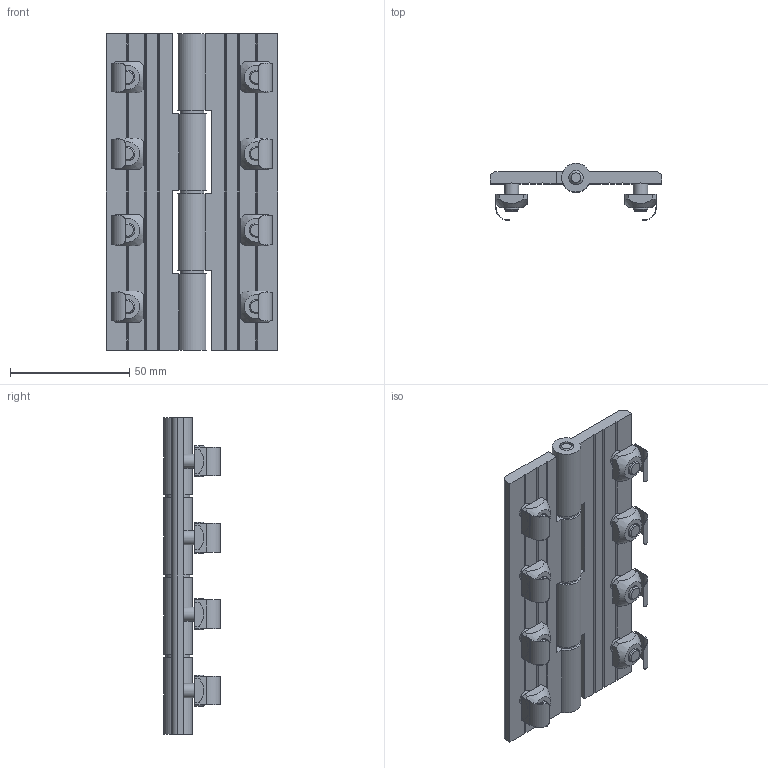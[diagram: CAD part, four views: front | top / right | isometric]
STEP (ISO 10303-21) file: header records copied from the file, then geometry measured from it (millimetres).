
FILE_DESCRIPTION((''),'2;1');
FILE_NAME('C:\Documents and Settings\Administrator\My Documents\AAAAINTERNET\UPLOAD\21.0970 DOOR HINGE LARGE.stp','2010-07-27T11:04:06',('Administrator'),(''),'Autodesk Inventor 2009','Autodesk Inventor 2009','');
FILE_SCHEMA(('AUTOMOTIVE_DESIGN { 1 0 10303 214 1 1 1 1 }'));
Length unit declared in the file: millimetre
Products named in the file (6): 21.0970 DOOR HINGE LARGE; 21.0970 Door Hinge Large Leaf; 21.1096 HINGE WASHER; 21.0970 DOOR HINGE LARGE PIN; 21.1506 M6x16 C'SUNK; 21.1330_2 M6 SQUARE NUT POS FXG
Assembly tree (14 placements, depth 2):
  21.0970 DOOR HINGE LARGE
    21.0970 Door Hinge Large Leaf  x2
    21.1096 HINGE WASHER  x3
    21.0970 DOOR HINGE LARGE PIN
    21.1330_2 M6 SQUARE NUT POS FXG  x8
  21.1506 M6x16 C'SUNK
Bounding box: 72 x 23.78 x 132.5 mm (x, y, z)
Volume: 59819.5 mm3; surface area: 39568.8 mm2
Topology: 22 solids, 22 shells, 369 faces, 941 edges, 608 vertices
Faces by surface type: plane 246, cylinder 73, cone 26, bspline 24
Full cylindrical faces by diameter (mm): 5.5 x3, 6 x21, 10 x3, 12 x8
Entity records: 2962 total; most frequent: CARTESIAN_POINT 699, DIRECTION 450, ORIENTED_EDGE 390, EDGE_CURVE 195, AXIS2_PLACEMENT_3D 165, VERTEX_POINT 137, VECTOR 120, LINE 120
